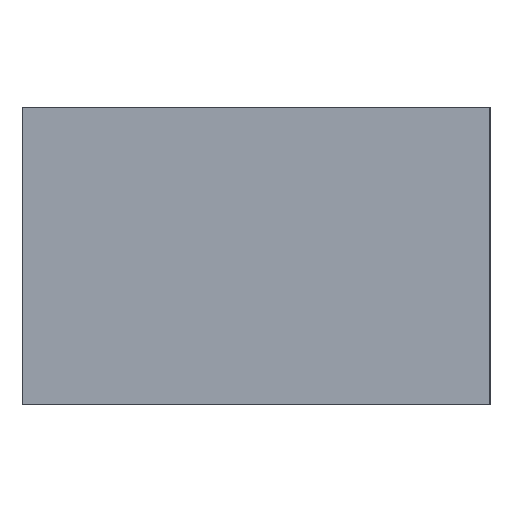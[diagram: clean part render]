
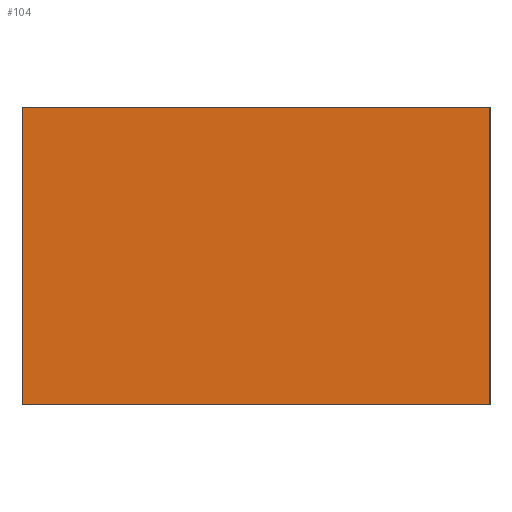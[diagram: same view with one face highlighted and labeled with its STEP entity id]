
A CAD part, left-side view. The second image highlights one B-rep face of the part: STEP entity #104.
In plain terms, the highlighted planar face has unit normal (-1, 0, 0).
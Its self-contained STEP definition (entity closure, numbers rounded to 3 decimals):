
#18=FACE_OUTER_BOUND('',#24,.T.);
#24=EDGE_LOOP('',(#83,#84,#85,#86));
#27=LINE('',#151,#39);
#35=LINE('',#166,#47);
#36=LINE('',#169,#48);
#37=LINE('',#170,#49);
#39=VECTOR('',#125,10.);
#47=VECTOR('',#137,10.);
#48=VECTOR('',#140,10.);
#49=VECTOR('',#141,10.);
#51=VERTEX_POINT('',#149);
#52=VERTEX_POINT('',#150);
#57=VERTEX_POINT('',#164);
#58=VERTEX_POINT('',#168);
#59=EDGE_CURVE('',#51,#52,#27,.T.);
#67=EDGE_CURVE('',#57,#52,#35,.T.);
#68=EDGE_CURVE('',#57,#58,#36,.T.);
#69=EDGE_CURVE('',#51,#58,#37,.T.);
#83=ORIENTED_EDGE('',*,*,#68,.T.);
#84=ORIENTED_EDGE('',*,*,#69,.F.);
#85=ORIENTED_EDGE('',*,*,#59,.T.);
#86=ORIENTED_EDGE('',*,*,#67,.F.);
#98=PLANE('',#118);
#104=ADVANCED_FACE('',(#18),#98,.T.);
#118=AXIS2_PLACEMENT_3D('',#167,#138,#139);
#125=DIRECTION('',(0.,-1.,0.));
#137=DIRECTION('',(0.,0.,-1.));
#138=DIRECTION('center_axis',(-1.,0.,0.));
#139=DIRECTION('ref_axis',(0.,0.,1.));
#140=DIRECTION('',(0.,1.,0.));
#141=DIRECTION('',(0.,0.,1.));
#149=CARTESIAN_POINT('',(-17.,5.5,-3.5));
#150=CARTESIAN_POINT('',(-17.,-5.5,-3.5));
#151=CARTESIAN_POINT('',(-17.,-5.5,-3.5));
#164=CARTESIAN_POINT('',(-17.,-5.5,3.5));
#166=CARTESIAN_POINT('',(-17.,-5.5,0.));
#167=CARTESIAN_POINT('Origin',(-17.,-5.5,0.));
#168=CARTESIAN_POINT('',(-17.,5.5,3.5));
#169=CARTESIAN_POINT('',(-17.,-5.5,3.5));
#170=CARTESIAN_POINT('',(-17.,5.5,0.));
